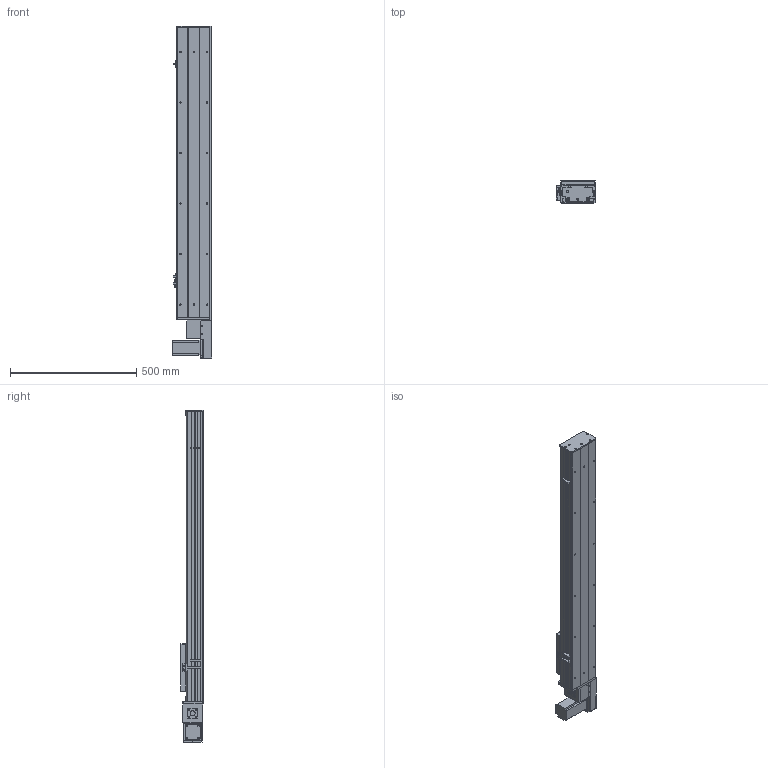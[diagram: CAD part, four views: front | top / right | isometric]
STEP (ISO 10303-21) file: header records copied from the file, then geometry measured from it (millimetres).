
FILE_DESCRIPTION (( 'STEP AP203' ), '1' );
FILE_NAME ('Y135CB-D90-S850-BL-P400W.STEP', '2020-02-17T08:36:19', ( '微软用户' ), ( '微软中国' ), 'SwSTEP 2.0', 'SolidWorks 2017', '' );
FILE_SCHEMA (( 'CONFIG_CONTROL_DESIGN' ));
Length unit declared in the file: millimetre
Products named in the file (18): Y俋欶BR----; Y135C-陔俋离換覜結え-; 0B-埴倛裔啣; 5C--俋欶; 0B-源倛裔啣; C-雄赽釱--; 0B-萇儂楊擘啣; Y135CB-耜裔; Y135CB-D90-S850-BL-P400W; san松下电机400不带刹车----; 135CB---遴掛极.-; 5CB --掛极耜裔啣-; 35CB---喘謫眊楊擘啣; C-詩湍揤踡え-陔; Y10B--々湍喘謫眊--666; 135CB--詩湍-CE; Y10B-耜蚾蟀諉啣----; Y100-135俋离換覜ん--
Assembly tree (21 placements, depth 2):
  Y135CB-D90-S850-BL-P400W
    Y135CB-耜裔
    135CB---遴掛极.-
    35CB---喘謫眊楊擘啣
    Y10B--々湍喘謫眊--666
    Y10B-耜蚾蟀諉啣----
    Y俋欶BR----
    0B-埴倛裔啣
    0B-源倛裔啣
    0B-萇儂楊擘啣
    san松下电机400不带刹车----
    5CB --掛极耜裔啣-  x2
    C-詩湍揤踡え-陔  x2
    135CB--詩湍-CE
    Y100-135俋离換覜ん--  x3
    Y135C-陔俋离換覜結え-
    5C--俋欶
    C-雄赽釱--
Bounding box: 157.5 x 91 x 1314.5 mm (x, y, z)
Volume: 3997822.6 mm3; surface area: 1560921.2 mm2
Topology: 21 solids, 21 shells, 941 faces, 2509 edges, 1662 vertices
Faces by surface type: cylinder 467, plane 458, cone 16
Entity records: 29139 total; most frequent: DIRECTION 4837, CARTESIAN_POINT 4768, ORIENTED_EDGE 4494, EDGE_CURVE 2247, AXIS2_PLACEMENT_3D 1759, VERTEX_POINT 1490, VECTOR 1319, LINE 1319
